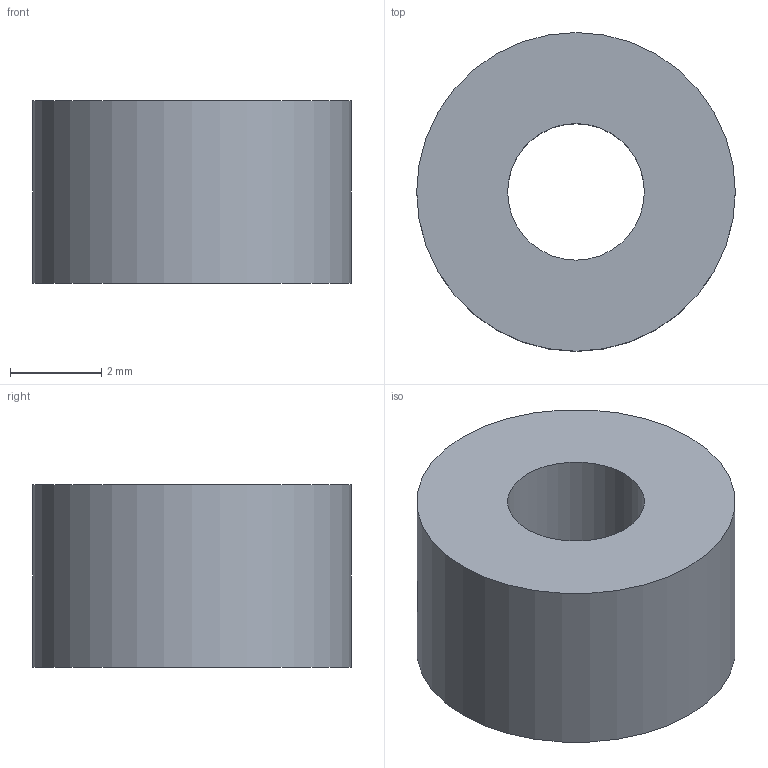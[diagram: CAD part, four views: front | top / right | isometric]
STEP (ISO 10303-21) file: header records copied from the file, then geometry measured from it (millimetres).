
FILE_DESCRIPTION(/* description */ (''),/* implementation_level */ '2;1');
FILE_NAME(/* name */ 'Claw Spacer_v1.tmp.step',/* time_stamp */ '2026-11-01T13:09:48+02:00',/* author */ (''),/* organization */ (''),/* preprocessor_version */ 'ST-DEVELOPER v20.2',/* originating_system */ 'Autodesk Translation Framework v15.15.0.0',/* authorisation */ '');
FILE_SCHEMA (('AUTOMOTIVE_DESIGN { 1 0 10303 214 3 1 1 }'));
Length unit declared in the file: millimetre
Products named in the file (1): Claw Spacer
Bounding box: 7 x 7 x 4 mm (x, y, z)
Volume: 125.7 mm3; surface area: 188.5 mm2
Topology: 1 solids, 1 shells, 4 faces, 6 edges, 4 vertices
Faces by surface type: cylinder 2, plane 2
Full cylindrical faces by diameter (mm): 3 x1, 7 x1
Entity records: 131 total; most frequent: DIRECTION 20, CARTESIAN_POINT 15, ORIENTED_EDGE 12, AXIS2_PLACEMENT_3D 9, EDGE_LOOP 6, EDGE_CURVE 6, FACE_OUTER_BOUND 4, CIRCLE 4
